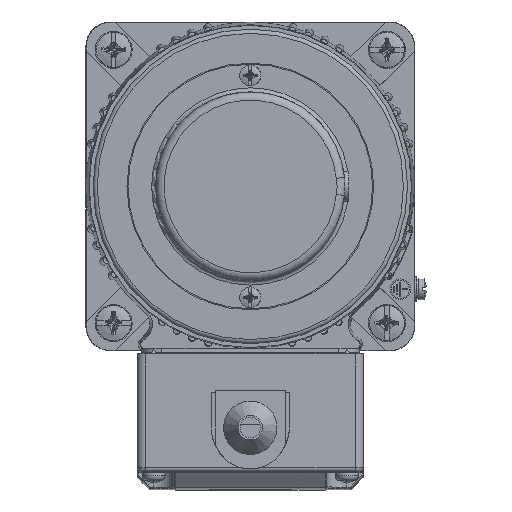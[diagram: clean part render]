
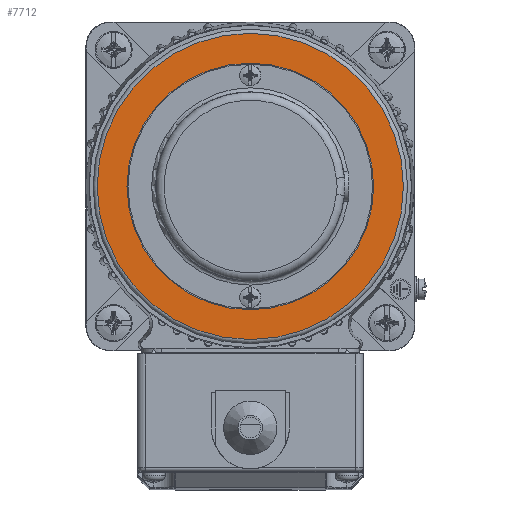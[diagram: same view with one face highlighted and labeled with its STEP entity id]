
A CAD part, left-side view. The second image highlights one B-rep face of the part: STEP entity #7712.
In plain terms, the highlighted planar face has unit normal (-1, 0, 0).
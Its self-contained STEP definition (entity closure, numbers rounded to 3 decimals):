
#2631=PLANE('',#27027);
#7712=ADVANCED_FACE('',(#8728,#8729),#2631,.F.);
#8728=FACE_BOUND('',#9949,.T.);
#8729=FACE_BOUND('',#9950,.T.);
#9949=EDGE_LOOP('',(#14786));
#9950=EDGE_LOOP('',(#14787));
#14786=ORIENTED_EDGE('',*,*,#22726,.T.);
#14787=ORIENTED_EDGE('',*,*,#22585,.F.);
#19495=VERTEX_POINT('',#38673);
#19576=VERTEX_POINT('',#39282);
#22585=EDGE_CURVE('',#19495,#19495,#25195,.T.);
#22726=EDGE_CURVE('',#19576,#19576,#25226,.T.);
#25195=CIRCLE('',#26945,30.);
#25226=CIRCLE('',#27026,37.25);
#26945=AXIS2_PLACEMENT_3D('',#38672,#31585,#31586);
#27026=AXIS2_PLACEMENT_3D('',#39281,#31802,#31803);
#27027=AXIS2_PLACEMENT_3D('',#39283,#31804,#31805);
#31585=DIRECTION('',(-1.,0.,0.));
#31586=DIRECTION('',(0.,0.,1.));
#31802=DIRECTION('',(-1.,0.,0.));
#31803=DIRECTION('',(0.,0.,-1.));
#31804=DIRECTION('',(1.,0.,0.));
#31805=DIRECTION('',(0.,0.,-1.));
#38672=CARTESIAN_POINT('',(-86.,40.,40.));
#38673=CARTESIAN_POINT('',(-86.,40.,70.));
#39281=CARTESIAN_POINT('',(-86.,40.,40.));
#39282=CARTESIAN_POINT('',(-86.,40.,2.75));
#39283=CARTESIAN_POINT('',(-86.,40.,78.25));
